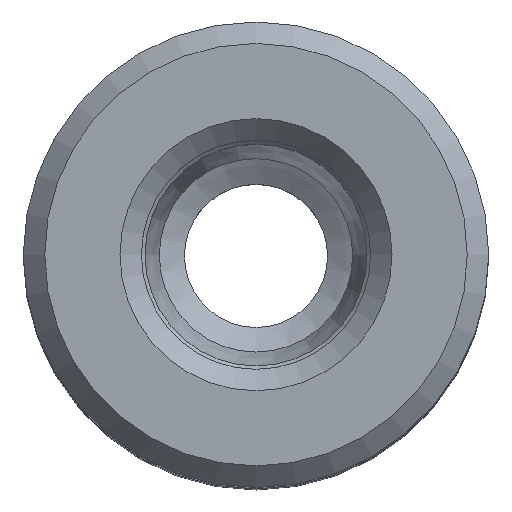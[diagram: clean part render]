
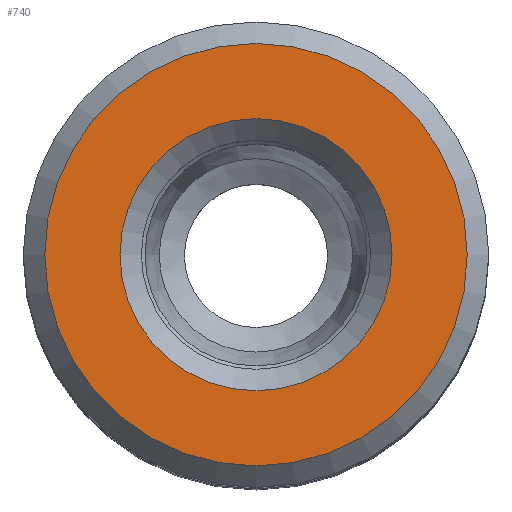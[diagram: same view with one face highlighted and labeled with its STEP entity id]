
A CAD part, top view. The second image highlights one B-rep face of the part: STEP entity #740.
In plain terms, the highlighted planar face has unit normal (0, 0, 1).
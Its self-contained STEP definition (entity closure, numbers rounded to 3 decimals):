
#740=ADVANCED_FACE('', (#750,#760), #770, .T.);
#4300=AXIS2_PLACEMENT_3D('Ax2Pl3d', #4310, #4320, #4330);
#4340=AXIS2_PLACEMENT_3D('Ax2Pl3d', #4350, #4360, #4370);
#4380=AXIS2_PLACEMENT_3D('Ax2Pl3d', #4390, #4400, #4410);
#4310=CARTESIAN_POINT('HicPkt', (29.429,-65.541,
46.128));
#9220=CARTESIAN_POINT('', (26.479,-65.541,46.128));
#4350=CARTESIAN_POINT('HicPkt', (26.479,-65.541,
46.128));
#4390=CARTESIAN_POINT('HicPkt', (29.429,-65.541,
46.128));
#9230=CARTESIAN_POINT('', (27.529,-65.541,46.128));
#9940=CIRCLE('Circle', #4300, 2.95);
#9950=CIRCLE('Circle', #4380, 1.9);
#4320=DIRECTION('Axis', (0.,0.,1.));
#4330=DIRECTION('RefDirection', (1.,0.,-0.));
#4360=DIRECTION('Axis', (0.,0.,1.));
#4370=DIRECTION('RefDirection', (1.,0.,-0.));
#4400=DIRECTION('Axis', (0.,0.,1.));
#4410=DIRECTION('RefDirection', (1.,0.,-0.));
#13120=EDGE_CURVE('', #13130, #13130, #9940, .T.);
#13140=EDGE_CURVE('', #13150, #13150, #9950, .T.);
#14860=EDGE_LOOP('Edge_loop', (#14870));
#14880=EDGE_LOOP('Edge_loop', (#14890));
#760=FACE_BOUND('', #14880, .T.);
#750=FACE_OUTER_BOUND('Face_outer_bound', #14860, .T.);
#14870=ORIENTED_EDGE('', *, *, #13120, .T.);
#14890=ORIENTED_EDGE('', *, *, #13140, .F.);
#770=PLANE('Plane', #4340);
#13130=VERTEX_POINT('', #9220);
#13150=VERTEX_POINT('', #9230);
